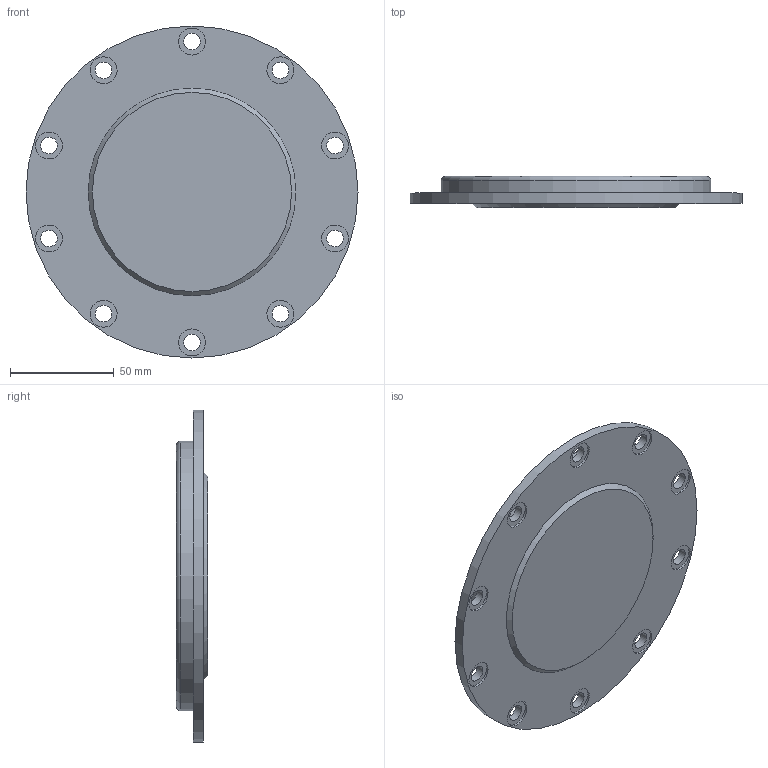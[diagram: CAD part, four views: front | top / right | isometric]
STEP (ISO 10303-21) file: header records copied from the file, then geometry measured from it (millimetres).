
FILE_DESCRIPTION(/* description */ (''),/* implementation_level */ '2;1');
FILE_NAME(/* name */ 'G:\YandexDisk\Работа\Inventor\Универ\ОАП\Лабораторные работы\ЛР6 Создание сборок\Редуктор\stp\Подшипниковый щит 4 2.stp',/* time_stamp */ '2023-11-17T06:35:15+03:00',/* author */ ('34740'),/* organization */ (''),/* preprocessor_version */ 'ST-DEVELOPER v18.1',/* originating_system */ 'Autodesk Inventor 2022',/* authorisation */ '');
FILE_SCHEMA (('AUTOMOTIVE_DESIGN { 1 0 10303 214 3 1 1 }'));
Length unit declared in the file: millimetre
Products named in the file (1): Подшипниковый 
щит 4 2
Bounding box: 160 x 15 x 160 mm (x, y, z)
Volume: 136457.6 mm3; surface area: 48554.3 mm2
Topology: 1 solids, 1 shells, 42 faces, 81 edges, 54 vertices
Faces by surface type: cylinder 23, plane 15, torus 3, cone 1
Full cylindrical faces by diameter (mm): 8 x10, 13 x10, 114 x1, 130 x1, 160 x1
Entity records: 1183 total; most frequent: DIRECTION 224, CARTESIAN_POINT 178, ORIENTED_EDGE 162, AXIS2_PLACEMENT_3D 100, EDGE_CURVE 81, EDGE_LOOP 75, CIRCLE 57, VERTEX_POINT 54
